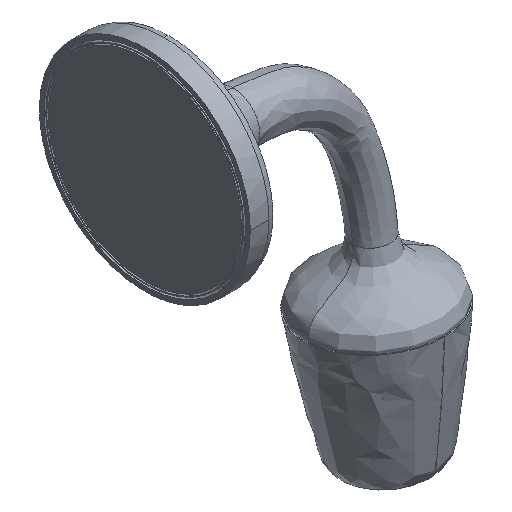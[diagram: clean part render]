
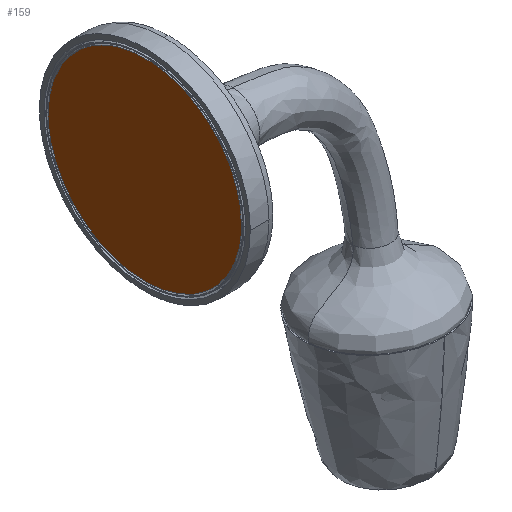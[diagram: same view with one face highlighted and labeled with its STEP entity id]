
A CAD part, isometric view. The second image highlights one B-rep face of the part: STEP entity #159.
In plain terms, the highlighted planar face has unit normal (-1, 0, 0).
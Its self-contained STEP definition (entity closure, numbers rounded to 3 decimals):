
#159=ADVANCED_FACE('',(#235),#1227,.T.);
#235=FACE_OUTER_BOUND('',#315,.T.);
#315=EDGE_LOOP('',(#670,#671,#672,#673));
#670=ORIENTED_EDGE('',*,*,#866,.T.);
#671=ORIENTED_EDGE('',*,*,#869,.T.);
#672=ORIENTED_EDGE('',*,*,#863,.F.);
#673=ORIENTED_EDGE('',*,*,#862,.F.);
#862=EDGE_CURVE('',#1150,#1153,#1030,.T.);
#863=EDGE_CURVE('',#1153,#1151,#1031,.T.);
#866=EDGE_CURVE('',#1150,#1154,#1033,.T.);
#869=EDGE_CURVE('',#1154,#1151,#1035,.T.);
#1030=(
BOUNDED_CURVE()
B_SPLINE_CURVE(2,(#7444,#7445,#7446,#7447,#7448),.UNSPECIFIED.,.F.,.F.)
B_SPLINE_CURVE_WITH_KNOTS((3,2,3),(-518.363,-432.127,
-345.891),.UNSPECIFIED.)
CURVE()
GEOMETRIC_REPRESENTATION_ITEM()
RATIONAL_B_SPLINE_CURVE((1.,0.867,1.,0.867,1.))
REPRESENTATION_ITEM('')
);
#1031=(
BOUNDED_CURVE()
B_SPLINE_CURVE(2,(#7449,#7450,#7451),.UNSPECIFIED.,.F.,.F.)
B_SPLINE_CURVE_WITH_KNOTS((3,3),(-345.891,-259.181),
 .UNSPECIFIED.)
CURVE()
GEOMETRIC_REPRESENTATION_ITEM()
RATIONAL_B_SPLINE_CURVE((1.,0.865,1.))
REPRESENTATION_ITEM('')
);
#1033=(
BOUNDED_CURVE()
B_SPLINE_CURVE(2,(#7457,#7458,#7459),.UNSPECIFIED.,.F.,.F.)
B_SPLINE_CURVE_WITH_KNOTS((3,3),(0.,86.71),.UNSPECIFIED.)
CURVE()
GEOMETRIC_REPRESENTATION_ITEM()
RATIONAL_B_SPLINE_CURVE((1.,0.865,1.))
REPRESENTATION_ITEM('')
);
#1035=(
BOUNDED_CURVE()
B_SPLINE_CURVE(2,(#7467,#7468,#7469,#7470,#7471),.UNSPECIFIED.,.F.,.F.)
B_SPLINE_CURVE_WITH_KNOTS((3,2,3),(86.71,172.946,259.181),
 .UNSPECIFIED.)
CURVE()
GEOMETRIC_REPRESENTATION_ITEM()
RATIONAL_B_SPLINE_CURVE((1.,0.867,1.,0.867,1.))
REPRESENTATION_ITEM('')
);
#1150=VERTEX_POINT('',#7430);
#1151=VERTEX_POINT('',#7431);
#1153=VERTEX_POINT('',#7433);
#1154=VERTEX_POINT('',#7434);
#1227=PLANE('',#1259);
#1259=AXIS2_PLACEMENT_3D('',#7407,#1274,$);
#1274=DIRECTION('',(-1.,0.,0.));
#7407=CARTESIAN_POINT('',(0.,-251.796,-68.504));
#7430=CARTESIAN_POINT('',(0.,-40.976,-71.605));
#7431=CARTESIAN_POINT('',(0.,40.976,71.605));
#7433=CARTESIAN_POINT('',(0.,82.5,0.));
#7434=CARTESIAN_POINT('',(0.,-82.5,0.));
#7444=CARTESIAN_POINT('',(0.,-40.976,-71.605));
#7445=CARTESIAN_POINT('',(0.,0.274,-95.21));
#7446=CARTESIAN_POINT('',(0.,41.387,-71.368));
#7447=CARTESIAN_POINT('',(0.,82.5,-47.526));
#7448=CARTESIAN_POINT('',(0.,82.5,0.));
#7449=CARTESIAN_POINT('',(0.,82.5,0.));
#7450=CARTESIAN_POINT('',(0.,82.5,47.842));
#7451=CARTESIAN_POINT('',(0.,40.976,71.605));
#7457=CARTESIAN_POINT('',(0.,-40.976,-71.605));
#7458=CARTESIAN_POINT('',(0.,-82.5,-47.842));
#7459=CARTESIAN_POINT('',(0.,-82.5,0.));
#7467=CARTESIAN_POINT('',(0.,-82.5,0.));
#7468=CARTESIAN_POINT('',(0.,-82.5,47.526));
#7469=CARTESIAN_POINT('',(0.,-41.387,71.368));
#7470=CARTESIAN_POINT('',(0.,-0.274,95.21));
#7471=CARTESIAN_POINT('',(0.,40.976,71.605));
